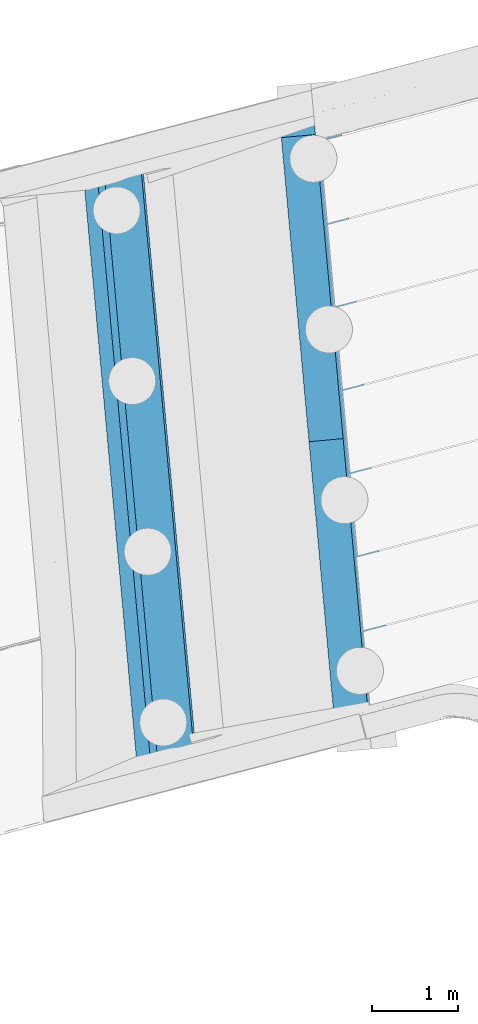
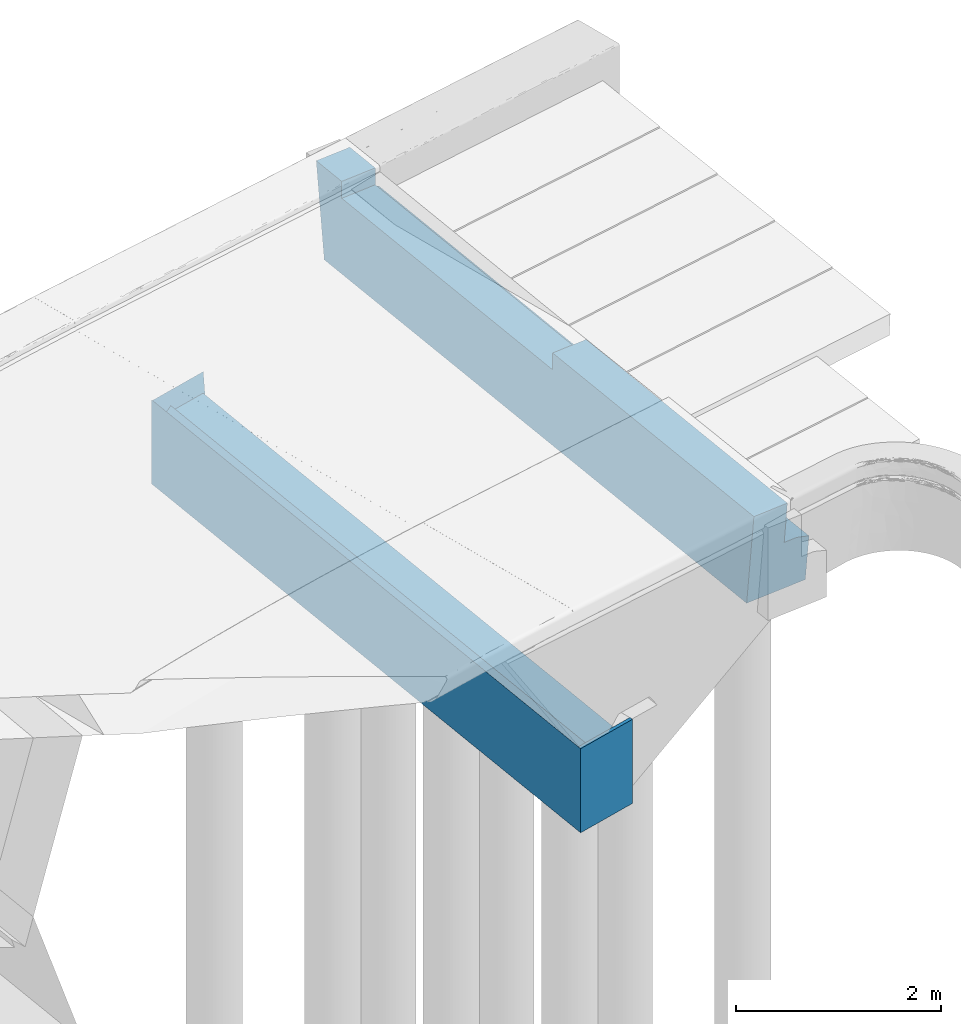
# One storey, part 8 of 15: 2 footings.
"""IFC2X3 building model written with IfcOpenShell, lengths in millimetres."""

from ifc_helpers import new_model, entity, si_unit, converted_unit, derived_unit, direction, frame, origin, place, context, subcontext, project, spatial, faceted_brep, material, element, save


model = new_model("IFC2X3")

# Units and contexts
model_context = context("Model", 3, precision=0.01, world=origin(), true_north=direction((6.12303176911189e-17, 1.0)))
body_context = subcontext(model_context, "Body", "Model", "MODEL_VIEW")
ifc_project = project(units=[si_unit("LENGTHUNIT", "METRE", prefix="MILLI"), si_unit("AREAUNIT", "SQUARE_METRE"), si_unit("VOLUMEUNIT", "CUBIC_METRE"), converted_unit("PLANEANGLEUNIT", "DEGREE", entity("IfcRatioMeasure", 0.0174532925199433), si_unit("PLANEANGLEUNIT", "RADIAN"), dimensions=[0, 0, 0, 0, 0, 0, 0]), si_unit("MASSUNIT", "GRAM", prefix="KILO"), derived_unit("MASSDENSITYUNIT", [(si_unit("MASSUNIT", "GRAM", prefix="KILO"), 1), (si_unit("LENGTHUNIT", "METRE"), -3)]), si_unit("TIMEUNIT", "SECOND"), si_unit("FREQUENCYUNIT", "HERTZ"), si_unit("THERMODYNAMICTEMPERATUREUNIT", "DEGREE_CELSIUS"), derived_unit("THERMALTRANSMITTANCEUNIT", [(si_unit("MASSUNIT", "GRAM", prefix="KILO"), 1), (si_unit("THERMODYNAMICTEMPERATUREUNIT", "KELVIN"), -1), (si_unit("TIMEUNIT", "SECOND"), -3)]), derived_unit("VOLUMETRICFLOWRATEUNIT", [(si_unit("LENGTHUNIT", "METRE"), 3), (si_unit("TIMEUNIT", "SECOND"), -1)]), si_unit("ELECTRICCURRENTUNIT", "AMPERE"), si_unit("ELECTRICVOLTAGEUNIT", "VOLT"), si_unit("POWERUNIT", "WATT"), si_unit("FORCEUNIT", "NEWTON", prefix="KILO"), si_unit("ILLUMINANCEUNIT", "LUX"), si_unit("LUMINOUSFLUXUNIT", "LUMEN"), si_unit("LUMINOUSINTENSITYUNIT", "CANDELA"), derived_unit("USERDEFINED", [(si_unit("MASSUNIT", "GRAM", prefix="KILO"), -1), (si_unit("LENGTHUNIT", "METRE"), -2), (si_unit("TIMEUNIT", "SECOND"), 3), (si_unit("LUMINOUSFLUXUNIT", "LUMEN"), 1)]), derived_unit("LINEARVELOCITYUNIT", [(si_unit("LENGTHUNIT", "METRE"), 1), (si_unit("TIMEUNIT", "SECOND"), -1)]), si_unit("PRESSUREUNIT", "PASCAL"), derived_unit("USERDEFINED", [(si_unit("LENGTHUNIT", "METRE"), -2), (si_unit("MASSUNIT", "GRAM", prefix="KILO"), 1), (si_unit("TIMEUNIT", "SECOND"), -2)])], contexts=[model_context])

# Site, building, storey
site_placement = place(None, origin())
site = spatial("IfcSite", under=ifc_project, at=site_placement, Name="Bruggen Achterburggracht Machinesloot", CompositionType="ELEMENT")
building_placement = place(site_placement, origin())
building = spatial("IfcBuilding", under=site, at=building_placement, Name="Bruggen Achterburggracht Machinesloot", CompositionType="ELEMENT")
storey_placement = place(building_placement, origin())
storey = spatial("IfcBuildingStorey", under=building, at=storey_placement, Name="00 begane grond", CompositionType="ELEMENT", Elevation=2.70716782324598e-13)

# Footings
ifc_material = material(Name="00_PBT_MAT_beton t.p.g.")
footing_1_placement = place(storey_placement, frame((-62563.7507903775, 115871.348274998, -860.0)))
element("IfcFooting", 1, at=footing_1_placement, inside=storey, material=ifc_material, Name="319-150_funderingsbalk tpv stootplaat:Brug 1_700x1100", ObjectType="319-150_funderingsbalk tpv stootplaat:Brug 1_700x1100", PredefinedType="NOTDEFINED", context=body_context, shape_type="Brep", body=[
    faceted_brep([(1355.37969134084, 185.632665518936, 0.0), (658.253921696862, 122.263419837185, 0.0), (12.2269164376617, 7229.21361952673, 0.0), (709.352686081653, 7292.58286520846, 0.0), (1360.9871262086, 123.945212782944, 555.0), (703.183650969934, 7360.44848841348, 555.0), (1212.05768959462, 105.364403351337, 600.0), (553.299365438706, 7352.37198243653, 600.0), (1062.6735960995, 91.7852792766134, 600.0), (403.915271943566, 7338.79285836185, 600.0), (437.377440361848, 6970.6751750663, 900.0), (759.862154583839, 3423.01728231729, 900.0), (759.862154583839, 3423.01728231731, 1100.0), (1067.72533922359, 36.2109975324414, 1100.0), (1066.87902981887, 45.5212566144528, 1016.23590274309), (400.543030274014, 7375.89092610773, 903.385228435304), (398.357582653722, 7399.93305944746, 1100.0), (437.377440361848, 6970.6751750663, 1100.0), (361.504571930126, 3386.80628478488, 1100.0), (669.367756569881, 0.0, 1100.0), (361.504571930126, 3386.80628478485, 900.0), (39.0198577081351, 6934.46417753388, 900.0), (39.0198577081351, 6934.46417753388, 1100.0), (0.0, 7363.72206191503, 1100.0), (1.5309299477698, 7346.88028469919, 962.269203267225), (7.93649431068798, 7276.4126005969, 385.989743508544), (662.153763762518, 79.3612143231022, 385.989743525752), (668.644519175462, 7.95634254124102, 1028.41704569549)], [[[0, 1, 2, 3]], [[4, 0, 3, 5]], [[6, 4, 5, 7]], [[8, 6, 7, 9]], [[10, 11, 12, 13, 14, 8, 9, 15, 16, 17]], [[12, 18, 19, 13]], [[20, 21, 22, 23, 24, 25, 2, 1, 26, 27, 19, 18]], [[20, 11, 10, 21]], [[21, 10, 17, 22]], [[11, 20, 18, 12]], [[1, 0, 4, 6, 8, 14, 13, 19, 27, 26]], [[3, 2, 25, 24, 23, 16, 15, 9, 7, 5]], [[22, 17, 16, 23]]]),
])
footing_2_placement = place(storey_placement, frame((-64845.6579884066, 115270.200701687, -2350.0)))
element("IfcFooting", 2, at=footing_2_placement, inside=storey, material=ifc_material, Name="16_PBT_SF_funderingsbalk enkele sponning:Brug 1_700x1000", ObjectType="16_PBT_SF_funderingsbalk enkele sponning:Brug 1_700x1000", PredefinedType="NOTDEFINED", context=body_context, shape_type="Brep", body=[
    faceted_brep([(0.0, 7219.6550155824, 1000.0), (656.271955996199, 0.0, 1000.0), (1342.79335073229, 180.028090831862, 1000.0), (1339.12189923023, 220.417769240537, 1000.0), (1031.43535304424, 139.732415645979, 1000.0), (652.877900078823, 40.4624204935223, 1000.0), (0.277395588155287, 7219.72775766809, 1000.0), (0.0, 7219.65501558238, 0.0), (656.271955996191, 0.0, 0.0), (686.521394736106, 7399.68310641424, 0.0), (1342.7933507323, 180.028090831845, 0.0), (686.521394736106, 7399.68310641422, 985.358720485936), (692.542990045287, 7333.43947010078, 383.806032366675), (1332.95374342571, 288.273719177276, 383.806032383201), (9.96290585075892, 7222.26761139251, 985.358720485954), (890.776085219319, 130.554617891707, 754.247662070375), (1314.05472099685, 241.551952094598, 754.247662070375), (666.227661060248, 7368.30457339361, 754.247662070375), (242.949025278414, 7257.30723918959, 754.247662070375), (242.305943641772, 7264.38178735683, 818.491017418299), (891.419166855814, 123.480069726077, 818.491017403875), (607.165987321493, 7304.38472989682, 324.680845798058), (1246.39304404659, 272.240838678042, 324.68084580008), (1073.55246132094, 197.005824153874, 589.972869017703), (429.014211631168, 7287.57820767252, 589.972869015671), (808.176886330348, 108.061830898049, 761.632473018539), (160.201981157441, 7236.44089901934, 761.632473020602)], [[[0, 1, 2, 3, 4, 5, 6]], [[0, 7, 8, 1]], [[7, 9, 10, 8]], [[10, 9, 11, 12, 13, 3, 2]], [[7, 0, 6, 14, 11, 9]], [[2, 1, 8, 10]], [[15, 16, 17, 18]], [[15, 18, 19, 20]], [[21, 22, 13, 12]], [[17, 16, 23, 24]], [[22, 21, 24, 23]], [[25, 26, 14, 6, 5]], [[20, 19, 26, 25]], [[16, 15, 20, 25, 5, 4, 3, 13, 22, 23]], [[18, 17, 24, 21, 12, 11, 14, 26, 19]]]),
])

save(model, "model.ifc")
